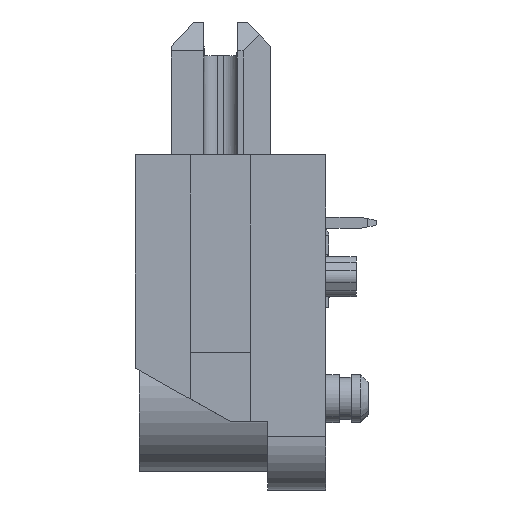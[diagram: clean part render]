
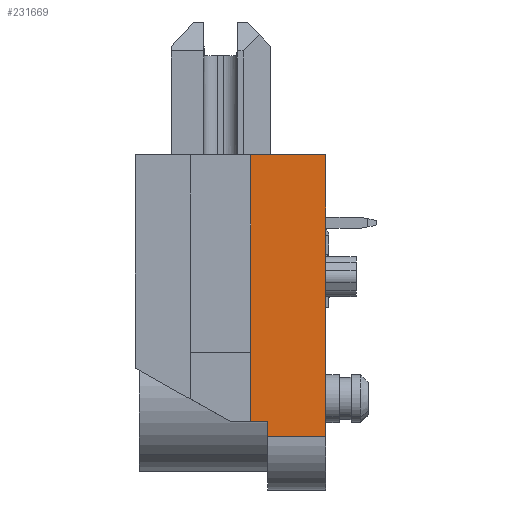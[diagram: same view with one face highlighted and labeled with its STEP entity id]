
A CAD part, left-side view. The second image highlights one B-rep face of the part: STEP entity #231669.
In plain terms, the highlighted planar face has unit normal (-1, 0, 0).
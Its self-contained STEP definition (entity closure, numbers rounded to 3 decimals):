
#5572 = VERTEX_POINT ( 'NONE', #450727 ) ;
#17853 = EDGE_CURVE ( 'NONE', #255857, #259496, #321111, .T. ) ;
#21231 = EDGE_CURVE ( 'NONE', #5572, #255857, #329856, .T. ) ;
#21603 = EDGE_CURVE ( 'NONE', #432063, #5572, #330639, .T. ) ;
#21646 = EDGE_CURVE ( 'NONE', #432063, #255996, #330704, .T. ) ;
#21669 = EDGE_CURVE ( 'NONE', #255996, #420643, #330743, .T. ) ;
#45477 = AXIS2_PLACEMENT_3D ( 'NONE', #106744, #106746, #106750 ) ;
#70934 = LINE ( 'NONE', #70958, #73374 ) ;
#70958 = CARTESIAN_POINT ( 'NONE',  ( 0., 6.25, 0. ) ) ;
#70962 = DIRECTION ( 'NONE',  ( 0., -1., 0. ) ) ;
#73374 = VECTOR ( 'NONE', #70962, 1000. ) ;
#91185 = EDGE_LOOP ( 'NONE', ( #435679, #435682, #435686, #435689, #435693, #435697 ) ) ;
#106675 = FACE_OUTER_BOUND ( 'NONE', #91185, .T. ) ;
#106678 = PLANE ( 'NONE',  #45477 ) ;
#106744 = CARTESIAN_POINT ( 'NONE',  ( 0., 6.25, 0. ) ) ;
#106746 = DIRECTION ( 'NONE',  ( 1., 0., 0. ) ) ;
#106750 = DIRECTION ( 'NONE',  ( 0., 0., -1. ) ) ;
#127756 = CARTESIAN_POINT ( 'NONE',  ( 0., 2.45, 0. ) ) ;
#145036 = CARTESIAN_POINT ( 'NONE',  ( 0., 2.45, -8.75 ) ) ;
#145149 = CARTESIAN_POINT ( 'NONE',  ( 0., 0., -9.25 ) ) ;
#169602 = VECTOR ( 'NONE', #330738, 1000. ) ;
#169865 = VECTOR ( 'NONE', #329869, 1000. ) ;
#170871 = VECTOR ( 'NONE', #330652, 1000. ) ;
#171435 = VECTOR ( 'NONE', #330789, 1000. ) ;
#218618 = VECTOR ( 'NONE', #321139, 1000. ) ;
#231669 = ADVANCED_FACE ( 'NONE', ( #106675 ), #106678, .F. ) ;
#255857 = VERTEX_POINT ( 'NONE', #145036 ) ;
#255996 = VERTEX_POINT ( 'NONE', #145149 ) ;
#259496 = VERTEX_POINT ( 'NONE', #127756 ) ;
#321111 = LINE ( 'NONE', #321132, #218618 ) ;
#321132 = CARTESIAN_POINT ( 'NONE',  ( 0., 2.45, -9. ) ) ;
#321139 = DIRECTION ( 'NONE',  ( 0., 0., 1. ) ) ;
#329856 = LINE ( 'NONE', #329863, #169865 ) ;
#329863 = CARTESIAN_POINT ( 'NONE',  ( 0., -4.27, -8.75 ) ) ;
#329869 = DIRECTION ( 'NONE',  ( 0., 1., 0. ) ) ;
#330639 = LINE ( 'NONE', #330641, #170871 ) ;
#330641 = CARTESIAN_POINT ( 'NONE',  ( 0., 1.905, -9.25 ) ) ;
#330652 = DIRECTION ( 'NONE',  ( 0., 0., 1. ) ) ;
#330704 = LINE ( 'NONE', #330726, #169602 ) ;
#330726 = CARTESIAN_POINT ( 'NONE',  ( 0., 6.25, -9.25 ) ) ;
#330738 = DIRECTION ( 'NONE',  ( 0., -1., 0. ) ) ;
#330743 = LINE ( 'NONE', #330783, #171435 ) ;
#330783 = CARTESIAN_POINT ( 'NONE',  ( 0., 0., 0. ) ) ;
#330789 = DIRECTION ( 'NONE',  ( 0., 0., 1. ) ) ;
#375094 = CARTESIAN_POINT ( 'NONE',  ( 0., 0., 0. ) ) ;
#383905 = CARTESIAN_POINT ( 'NONE',  ( 0., 1.905, -9.25 ) ) ;
#420643 = VERTEX_POINT ( 'NONE', #375094 ) ;
#432063 = VERTEX_POINT ( 'NONE', #383905 ) ;
#435679 = ORIENTED_EDGE ( 'NONE', *, *, #441550, .F. ) ;
#435682 = ORIENTED_EDGE ( 'NONE', *, *, #17853, .F. ) ;
#435686 = ORIENTED_EDGE ( 'NONE', *, *, #21231, .F. ) ;
#435689 = ORIENTED_EDGE ( 'NONE', *, *, #21603, .F. ) ;
#435693 = ORIENTED_EDGE ( 'NONE', *, *, #21646, .T. ) ;
#435697 = ORIENTED_EDGE ( 'NONE', *, *, #21669, .T. ) ;
#441550 = EDGE_CURVE ( 'NONE', #259496, #420643, #70934, .T. ) ;
#450727 = CARTESIAN_POINT ( 'NONE',  ( 0., 1.905, -8.75 ) ) ;
